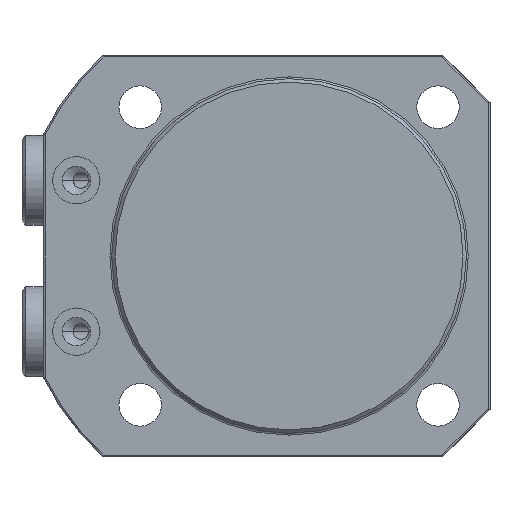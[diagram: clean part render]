
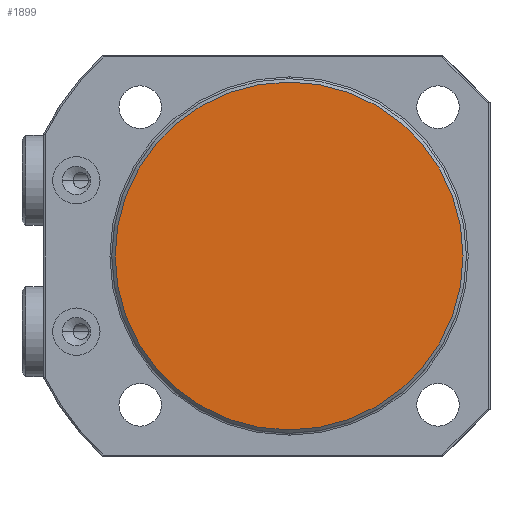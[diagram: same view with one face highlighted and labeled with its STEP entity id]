
A CAD part, front view. The second image highlights one B-rep face of the part: STEP entity #1899.
In plain terms, the highlighted planar face has unit normal (0, -1, 0) as drawn and (-1, 0, 0) by its records, which use the part's own axes.
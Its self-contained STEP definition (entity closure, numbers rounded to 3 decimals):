
#1603=PLANE('',#6713);
#1899=ADVANCED_FACE('',(#2251),#1603,.F.);
#2251=FACE_OUTER_BOUND('',#2564,.T.);
#2564=EDGE_LOOP('',(#3804));
#3804=ORIENTED_EDGE('',*,*,#5603,.T.);
#5057=VERTEX_POINT('',#9331);
#5603=EDGE_CURVE('',#5057,#5057,#6263,.T.);
#6263=CIRCLE('',#6712,36.8);
#6712=AXIS2_PLACEMENT_3D('',#9330,#7665,#7666);
#6713=AXIS2_PLACEMENT_3D('',#9332,#7667,#7668);
#7665=DIRECTION('',(-1.,0.,0.));
#7666=DIRECTION('',(0.,0.,-1.));
#7667=DIRECTION('',(1.,0.,0.));
#7668=DIRECTION('',(0.,0.,1.));
#9330=CARTESIAN_POINT('',(0.,0.,0.));
#9331=CARTESIAN_POINT('',(0.,0.,-36.8));
#9332=CARTESIAN_POINT('',(0.,0.,0.));
